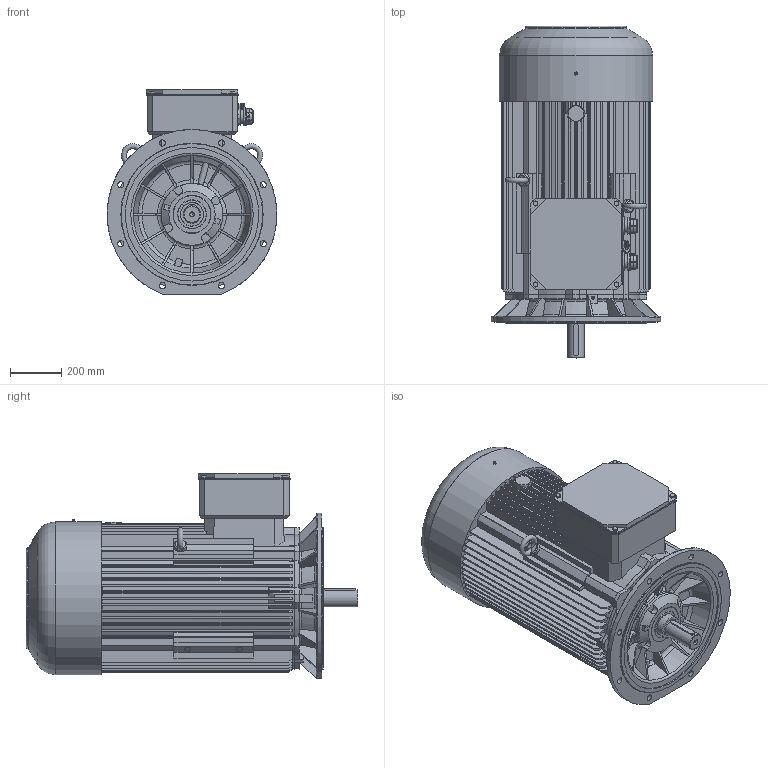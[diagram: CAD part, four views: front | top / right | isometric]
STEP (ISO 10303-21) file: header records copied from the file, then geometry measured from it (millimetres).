
FILE_DESCRIPTION(/* description */ ('Unknown','CAx-IF Rec.Pracs.---Representation and Presentation of Product Manufacturing Information (PMI)---4.0---2014-10-13','CAx-IF Rec.Pracs.---3D Tessellated Geometry---0.4---2014-09-14','2;1'),/* implementation_level */ '2;1');
FILE_NAME(/* name */ '4SIEK315 (M2A; M2B)',/* time_stamp */ '2023-03-22T13:16:30+01:00',/* author */ ('Unknown'),/* organization */ ('Unknown'),/* preprocessor_version */ 'ST-DEVELOPER v16.7',/* originating_system */ 'DEX',/* authorisation */ $);
FILE_SCHEMA (('AP242_MANAGED_MODEL_BASED_3D_ENGINEERING_MIM_LF { 1 0 10303 442 20130219 1 4 }'));
Products named in the file (1): 4SIEK315 (M2A; M2B)
Bounding box: 660 x 1290 x 793.5 mm (x, y, z)
Volume: 279851819.5 mm3; surface area: 6707079.1 mm2
Topology: 4 solids, 19 shells, 1778 faces, 5085 edges, 3335 vertices
Faces by surface type: plane 895, cylinder 530, torus 158, cone 123, sphere 56, bspline 16
Full cylindrical faces by diameter (mm): 1.6 x2, 5 x4, 6.595 x1, 8.698 x1, 9 x1, 9.306 x1, 10.106 x4, 11 x1, 11.352 x1, 13 x1, 13.835 x1, 16.63 x4, 17 x1, 17.294 x1, 18 x1, 20 x2, 21.546 x1, 24 x12, 27 x1, 38.657 x2, 42.657 x2, 44 x2, 47 x2, 50 x2, 54 x2, 64.999 x1, 75 x2, 89.5 x1, 90 x1, 99.4 x1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
Entity records: 73500 total; most frequent: CARTESIAN_POINT 16855, ORIENTED_EDGE 9450, DIRECTION 9046, EDGE_CURVE 4725, AXIS2_PLACEMENT_3D 3357, VERTEX_POINT 3164, LINE 2332, VECTOR 2332
